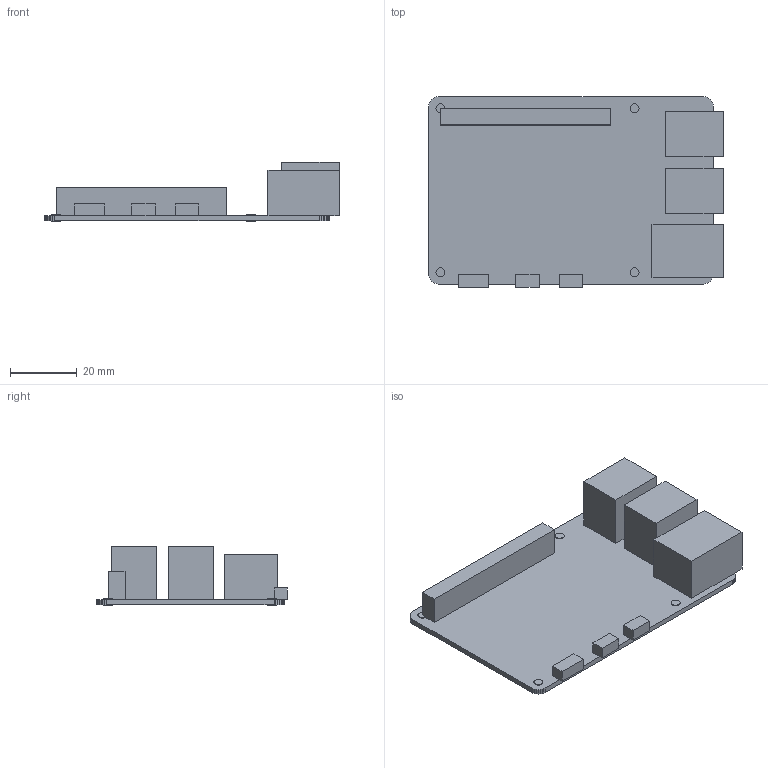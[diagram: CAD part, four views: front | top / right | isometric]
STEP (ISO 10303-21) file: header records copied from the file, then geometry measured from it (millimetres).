
FILE_DESCRIPTION(('Open CASCADE Model'),'2;1');
FILE_NAME('Open CASCADE Shape Model','2026-08-07T13:51:21',('Author'),( 'Open CASCADE'),'Open CASCADE STEP processor 7.9','Open CASCADE 7.9' ,'Unknown');
FILE_SCHEMA(('AUTOMOTIVE_DESIGN { 1 0 10303 214 1 1 1 1 }'));
Length unit declared in the file: millimetre
Products named in the file (1): RaspberryPi5(外購)
Bounding box: 88 x 57 x 17.7 mm (x, y, z)
Volume: 22092.1 mm3; surface area: 14420.1 mm2
Topology: 1 solids, 1 shells, 275 faces, 779 edges, 514 vertices
Faces by surface type: plane 275
Entity records: 18842 total; most frequent: CARTESIAN_POINT 3127, DIRECTION 2889, LINE 2337, VECTOR 2337, ORIENTED_EDGE 1558, PCURVE 1558, DEFINITIONAL_REPRESENTATION 1558, EDGE_CURVE 779
